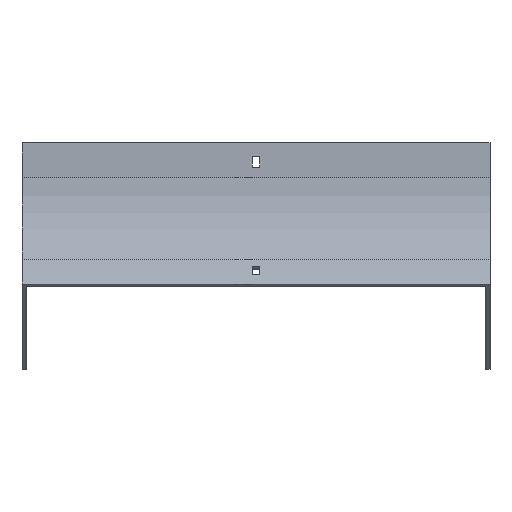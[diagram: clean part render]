
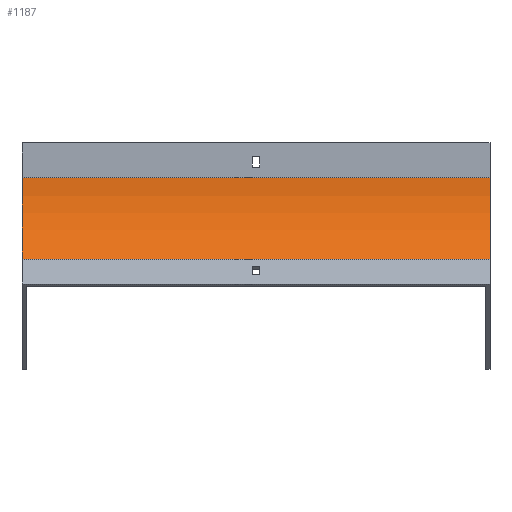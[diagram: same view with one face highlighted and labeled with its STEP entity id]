
A CAD part, front view. The second image highlights one B-rep face of the part: STEP entity #1187.
In plain terms, the highlighted cylindrical face has radius 100 mm (diameter 200 mm), a partial arc.
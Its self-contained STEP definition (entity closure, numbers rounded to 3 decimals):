
#26 = ORIENTED_EDGE ( 'NONE', *, *, #380, .F. ) ;
#57 = LINE ( 'NONE', #174, #1758 ) ;
#119 = DIRECTION ( 'NONE',  ( -1., 0., 0. ) ) ;
#174 = CARTESIAN_POINT ( 'NONE',  ( 202., 0., -30. ) ) ;
#199 = DIRECTION ( 'NONE',  ( -1., 0., 0. ) ) ;
#211 = VERTEX_POINT ( 'NONE', #1781 ) ;
#295 = AXIS2_PLACEMENT_3D ( 'NONE', #1809, #199, #462 ) ;
#311 = CARTESIAN_POINT ( 'NONE',  ( 202., 0., -30. ) ) ;
#343 = CIRCLE ( 'NONE', #1913, 100. ) ;
#344 = ORIENTED_EDGE ( 'NONE', *, *, #468, .T. ) ;
#380 = EDGE_CURVE ( 'NONE', #580, #211, #441, .T. ) ;
#422 = VECTOR ( 'NONE', #1147, 1000. ) ;
#441 = CIRCLE ( 'NONE', #1824, 100. ) ;
#462 = DIRECTION ( 'NONE',  ( 0., 0., 1. ) ) ;
#468 = EDGE_CURVE ( 'NONE', #578, #617, #343, .T. ) ;
#578 = VERTEX_POINT ( 'NONE', #1198 ) ;
#580 = VERTEX_POINT ( 'NONE', #311 ) ;
#617 = VERTEX_POINT ( 'NONE', #1056 ) ;
#769 = FACE_OUTER_BOUND ( 'NONE', #1381, .T. ) ;
#794 = DIRECTION ( 'NONE',  ( -1., 0., 0. ) ) ;
#846 = EDGE_CURVE ( 'NONE', #211, #617, #1895, .T. ) ;
#956 = DIRECTION ( 'NONE',  ( -1., 0., 0. ) ) ;
#1056 = CARTESIAN_POINT ( 'NONE',  ( -202., -29.289, -100.711 ) ) ;
#1147 = DIRECTION ( 'NONE',  ( -1., 0., 0. ) ) ;
#1187 = ADVANCED_FACE ( 'NONE', ( #769 ), #1205, .F. ) ;
#1198 = CARTESIAN_POINT ( 'NONE',  ( -202., 0., -30. ) ) ;
#1205 = CYLINDRICAL_SURFACE ( 'NONE', #295, 100. ) ;
#1220 = DIRECTION ( 'NONE',  ( 0., 0., 1. ) ) ;
#1294 = CARTESIAN_POINT ( 'NONE',  ( 202., -29.289, -100.711 ) ) ;
#1381 = EDGE_LOOP ( 'NONE', ( #344, #1394, #26, #1924 ) ) ;
#1394 = ORIENTED_EDGE ( 'NONE', *, *, #846, .F. ) ;
#1396 = CARTESIAN_POINT ( 'NONE',  ( 202., -100., -30. ) ) ;
#1597 = DIRECTION ( 'NONE',  ( 0., 0., 1. ) ) ;
#1758 = VECTOR ( 'NONE', #794, 1000. ) ;
#1781 = CARTESIAN_POINT ( 'NONE',  ( 202., -29.289, -100.711 ) ) ;
#1809 = CARTESIAN_POINT ( 'NONE',  ( 202., -100., -30. ) ) ;
#1817 = EDGE_CURVE ( 'NONE', #580, #578, #57, .T. ) ;
#1824 = AXIS2_PLACEMENT_3D ( 'NONE', #1396, #956, #1220 ) ;
#1895 = LINE ( 'NONE', #1294, #422 ) ;
#1913 = AXIS2_PLACEMENT_3D ( 'NONE', #1917, #119, #1597 ) ;
#1917 = CARTESIAN_POINT ( 'NONE',  ( -202., -100., -30. ) ) ;
#1924 = ORIENTED_EDGE ( 'NONE', *, *, #1817, .T. ) ;
